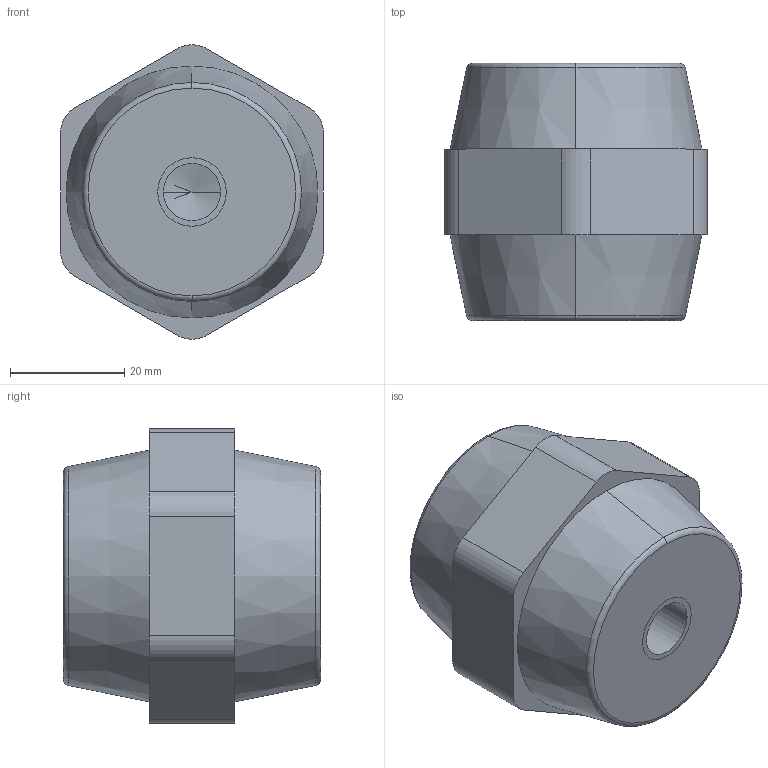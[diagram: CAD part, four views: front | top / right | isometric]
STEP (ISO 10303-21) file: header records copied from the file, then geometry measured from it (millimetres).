
FILE_DESCRIPTION (( 'STEP AP214' ), '1' );
FILE_NAME ('Isolatore 4625 46X45-M10.STEP', '2025-04-14T11:43:04', ( '' ), ( '' ), 'SwSTEP 2.0', 'SolidWorks 2020', '' );
FILE_SCHEMA (( 'AUTOMOTIVE_DESIGN' ));
Length unit declared in the file: millimetre
Products named in the file (1): Isolatore 4625 46X45-M10
Bounding box: 46 x 45 x 51.57 mm (x, y, z)
Volume: 65838.3 mm3; surface area: 11891.6 mm2
Topology: 3 solids, 3 shells, 75 faces, 167 edges, 100 vertices
Faces by surface type: cylinder 35, plane 20, cone 16, torus 4
Entity records: 2562 total; most frequent: DIRECTION 393, CARTESIAN_POINT 331, ORIENTED_EDGE 310, AXIS2_PLACEMENT_3D 162, EDGE_CURVE 155, VERTEX_POINT 100, EDGE_LOOP 89, CIRCLE 86
